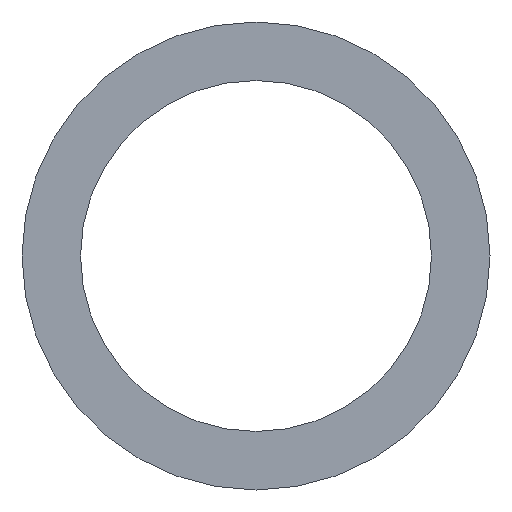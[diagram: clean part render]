
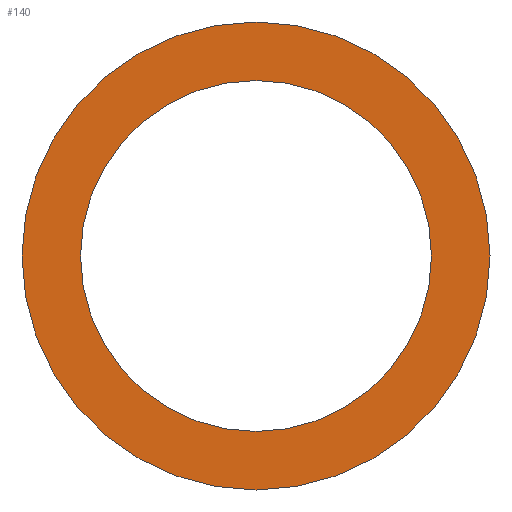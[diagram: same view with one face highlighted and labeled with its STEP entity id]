
A CAD part, front view. The second image highlights one B-rep face of the part: STEP entity #140.
In plain terms, the highlighted planar face has unit normal (0, -1, 0).
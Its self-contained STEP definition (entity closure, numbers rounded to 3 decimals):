
#31 = CYLINDRICAL_SURFACE('',#32,20.);
#32 = AXIS2_PLACEMENT_3D('',#33,#34,#35);
#33 = CARTESIAN_POINT('',(0.,-312.,0.));
#34 = DIRECTION('',(0.,1.,0.));
#35 = DIRECTION('',(0.,-0.,1.));
#56 = VERTEX_POINT('',#57);
#57 = CARTESIAN_POINT('',(0.,-312.,20.));
#78 = EDGE_CURVE('',#56,#56,#79,.T.);
#79 = SURFACE_CURVE('',#80,(#85,#92),.PCURVE_S1.);
#80 = CIRCLE('',#81,20.);
#81 = AXIS2_PLACEMENT_3D('',#82,#83,#84);
#82 = CARTESIAN_POINT('',(0.,-312.,0.));
#83 = DIRECTION('',(0.,1.,0.));
#84 = DIRECTION('',(0.,-0.,1.));
#85 = PCURVE('',#31,#86);
#86 = DEFINITIONAL_REPRESENTATION('',(#87),#91);
#87 = LINE('',#88,#89);
#88 = CARTESIAN_POINT('',(0.,0.));
#89 = VECTOR('',#90,1.);
#90 = DIRECTION('',(1.,0.));
#91 = ( GEOMETRIC_REPRESENTATION_CONTEXT(2) 
PARAMETRIC_REPRESENTATION_CONTEXT() REPRESENTATION_CONTEXT('2D SPACE',''
  ) );
#92 = PCURVE('',#93,#98);
#93 = PLANE('',#94);
#94 = AXIS2_PLACEMENT_3D('',#95,#96,#97);
#95 = CARTESIAN_POINT('',(0.,-312.,0.));
#96 = DIRECTION('',(0.,1.,0.));
#97 = DIRECTION('',(0.,-0.,1.));
#98 = DEFINITIONAL_REPRESENTATION('',(#99),#103);
#99 = CIRCLE('',#100,20.);
#100 = AXIS2_PLACEMENT_2D('',#101,#102);
#101 = CARTESIAN_POINT('',(0.,0.));
#102 = DIRECTION('',(1.,0.));
#103 = ( GEOMETRIC_REPRESENTATION_CONTEXT(2) 
PARAMETRIC_REPRESENTATION_CONTEXT() REPRESENTATION_CONTEXT('2D SPACE',''
  ) );
#129 = CYLINDRICAL_SURFACE('',#130,15.);
#130 = AXIS2_PLACEMENT_3D('',#131,#132,#133);
#131 = CARTESIAN_POINT('',(0.,-318.24,0.));
#132 = DIRECTION('',(0.,1.,0.));
#133 = DIRECTION('',(0.,-0.,1.));
#140 = ADVANCED_FACE('',(#141,#144),#93,.F.);
#141 = FACE_BOUND('',#142,.F.);
#142 = EDGE_LOOP('',(#143));
#143 = ORIENTED_EDGE('',*,*,#78,.T.);
#144 = FACE_BOUND('',#145,.F.);
#145 = EDGE_LOOP('',(#146));
#146 = ORIENTED_EDGE('',*,*,#147,.F.);
#147 = EDGE_CURVE('',#148,#148,#150,.T.);
#148 = VERTEX_POINT('',#149);
#149 = CARTESIAN_POINT('',(0.,-312.,15.));
#150 = SURFACE_CURVE('',#151,(#156,#163),.PCURVE_S1.);
#151 = CIRCLE('',#152,15.);
#152 = AXIS2_PLACEMENT_3D('',#153,#154,#155);
#153 = CARTESIAN_POINT('',(0.,-312.,0.));
#154 = DIRECTION('',(0.,1.,0.));
#155 = DIRECTION('',(0.,-0.,1.));
#156 = PCURVE('',#93,#157);
#157 = DEFINITIONAL_REPRESENTATION('',(#158),#162);
#158 = CIRCLE('',#159,15.);
#159 = AXIS2_PLACEMENT_2D('',#160,#161);
#160 = CARTESIAN_POINT('',(0.,0.));
#161 = DIRECTION('',(1.,0.));
#162 = ( GEOMETRIC_REPRESENTATION_CONTEXT(2) 
PARAMETRIC_REPRESENTATION_CONTEXT() REPRESENTATION_CONTEXT('2D SPACE',''
  ) );
#163 = PCURVE('',#129,#164);
#164 = DEFINITIONAL_REPRESENTATION('',(#165),#169);
#165 = LINE('',#166,#167);
#166 = CARTESIAN_POINT('',(0.,6.24));
#167 = VECTOR('',#168,1.);
#168 = DIRECTION('',(1.,0.));
#169 = ( GEOMETRIC_REPRESENTATION_CONTEXT(2) 
PARAMETRIC_REPRESENTATION_CONTEXT() REPRESENTATION_CONTEXT('2D SPACE',''
  ) );
